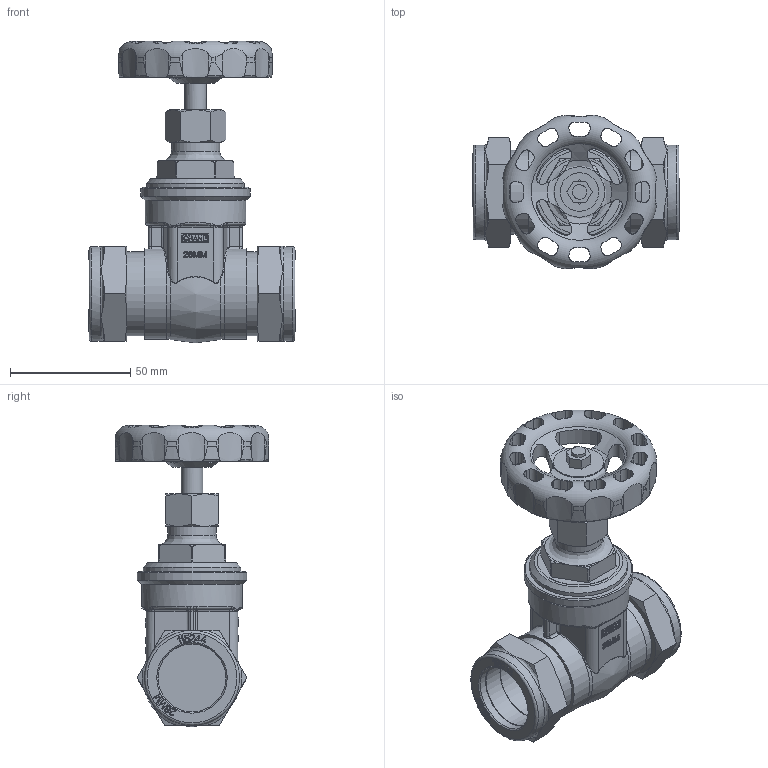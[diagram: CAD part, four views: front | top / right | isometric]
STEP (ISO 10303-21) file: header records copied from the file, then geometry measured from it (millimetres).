
FILE_DESCRIPTION((''),'2;1');
FILE_NAME('P:\Fastrack\53972_CRANE 3D\Gate Valves\Work Space\Handwheel\D155C_28mm\D155C_28mm.stp','2011-03-11T14:22:43',('btaylor'),(''),'Autodesk Inventor 2008','Autodesk Inventor 2008','');
FILE_SCHEMA(('AUTOMOTIVE_DESIGN { 1 0 10303 214 1 1 1 1 }'));
Length unit declared in the file: millimetre
Products named in the file (1): D155C_28mm
Bounding box: 85.84 x 63.81 x 125.63 mm (x, y, z)
Volume: 147295.3 mm3; surface area: 41172.7 mm2
Topology: 1 solids, 3 shells, 1085 faces, 2988 edges, 1947 vertices
Faces by surface type: plane 495, bspline 292, cylinder 217, cone 57, torus 24
Full cylindrical faces by diameter (mm): 6 x2, 9 x1, 20 x1, 21 x1, 28.225 x2, 28.25 x2, 28.3 x2, 34.565 x1, 35 x4, 37.6 x2, 39.4 x2, 40.7 x1, 42 x1, 45.5 x1
Entity records: 44644 total; most frequent: CARTESIAN_POINT 18722, ORIENTED_EDGE 5790, DIRECTION 4020, EDGE_CURVE 2895, VERTEX_POINT 1919, VECTOR 1516, LINE 1516, AXIS2_PLACEMENT_3D 1252
